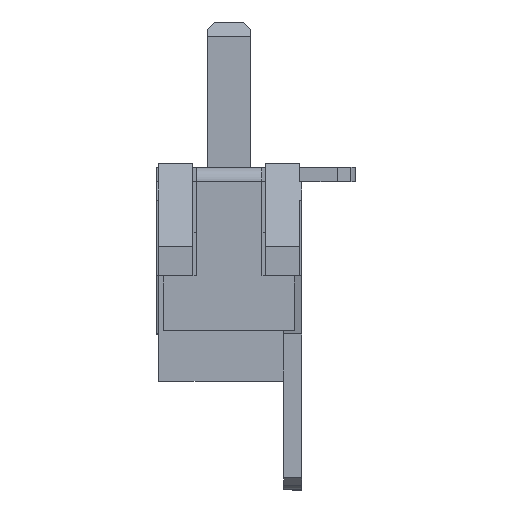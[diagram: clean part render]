
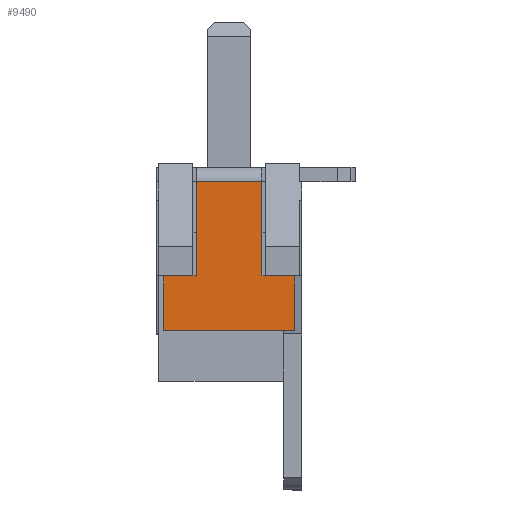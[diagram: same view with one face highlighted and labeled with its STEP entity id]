
A CAD part, left-side view. The second image highlights one B-rep face of the part: STEP entity #9490.
In plain terms, the highlighted planar face has unit normal (-1, 0, 0).
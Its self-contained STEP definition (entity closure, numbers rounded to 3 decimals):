
#5119 = CARTESIAN_POINT ( 'NONE',  ( -6.2, 0.24, -0.395 ) ) ;
#5120 = CARTESIAN_POINT ( 'NONE',  ( -6.2, 2.04, -0.395 ) ) ;
#5121 = CARTESIAN_POINT ( 'NONE',  ( -6.2, 0.64, 0.355 ) ) ;
#5122 = CARTESIAN_POINT ( 'NONE',  ( -6.2, 0.24, 0.355 ) ) ;
#5123 = DIRECTION ( 'NONE',  ( 0., 0., 1. ) ) ;
#5124 = VECTOR ( 'NONE', #5123, 1000. ) ;
#5125 = CARTESIAN_POINT ( 'NONE',  ( -6.2, 0.24, 1.855 ) ) ;
#5126 = LINE ( 'NONE', #5125, #5124 ) ;
#5127 = DIRECTION ( 'NONE',  ( 0., 1., 0. ) ) ;
#5128 = VECTOR ( 'NONE', #5127, 1000. ) ;
#5129 = CARTESIAN_POINT ( 'NONE',  ( -6.2, 1.59, -0.395 ) ) ;
#5130 = LINE ( 'NONE', #5129, #5128 ) ;
#5131 = DIRECTION ( 'NONE',  ( 0., 1., 0. ) ) ;
#5132 = VECTOR ( 'NONE', #5131, 1000. ) ;
#5133 = CARTESIAN_POINT ( 'NONE',  ( -6.2, 1.59, 0.355 ) ) ;
#5134 = LINE ( 'NONE', #5133, #5132 ) ;
#5136 = DIRECTION ( 'NONE',  ( 0., 0., -1. ) ) ;
#5137 = VECTOR ( 'NONE', #5136, 1000. ) ;
#5138 = CARTESIAN_POINT ( 'NONE',  ( -6.2, 2.04, 1.855 ) ) ;
#5139 = LINE ( 'NONE', #5138, #5137 ) ;
#5140 = DIRECTION ( 'NONE',  ( 0., 1., 0. ) ) ;
#5141 = VECTOR ( 'NONE', #5140, 1000. ) ;
#5142 = CARTESIAN_POINT ( 'NONE',  ( -6.2, 1.59, 0.355 ) ) ;
#5143 = LINE ( 'NONE', #5142, #5141 ) ;
#5151 = CARTESIAN_POINT ( 'NONE',  ( -6.2, 1.59, 1.855 ) ) ;
#5152 = AXIS2_PLACEMENT_3D ( 'NONE', #5151, #5212, #5211 ) ;
#5153 = PLANE ( 'NONE',  #5152 ) ;
#5168 = FACE_OUTER_BOUND ( 'NONE', #9491, .T. ) ;
#5175 = DIRECTION ( 'NONE',  ( 0., 1., 0. ) ) ;
#5176 = VECTOR ( 'NONE', #5175, 1000. ) ;
#5177 = CARTESIAN_POINT ( 'NONE',  ( -6.2, 1.59, 0.355 ) ) ;
#5178 = LINE ( 'NONE', #5177, #5176 ) ;
#5211 = DIRECTION ( 'NONE',  ( 0., -1., 0. ) ) ;
#5212 = DIRECTION ( 'NONE',  ( -1., 0., 0. ) ) ;
#5258 = CARTESIAN_POINT ( 'NONE',  ( -6.2, 2.04, 0.355 ) ) ;
#5259 = CARTESIAN_POINT ( 'NONE',  ( -6.2, 1.59, 0.355 ) ) ;
#5266 = CARTESIAN_POINT ( 'NONE',  ( -6.2, 1.59, 1.655 ) ) ;
#5306 = CARTESIAN_POINT ( 'NONE',  ( -6.2, 0.69, 0.355 ) ) ;
#5308 = DIRECTION ( 'NONE',  ( 0., 1., 0. ) ) ;
#5309 = VECTOR ( 'NONE', #5308, 1000. ) ;
#5310 = CARTESIAN_POINT ( 'NONE',  ( -6.2, 1.59, 1.655 ) ) ;
#5311 = LINE ( 'NONE', #5310, #5309 ) ;
#5312 = CARTESIAN_POINT ( 'NONE',  ( -6.2, 1.64, 0.355 ) ) ;
#5313 = DIRECTION ( 'NONE',  ( 0., 1., 0. ) ) ;
#5314 = VECTOR ( 'NONE', #5313, 1000. ) ;
#5315 = CARTESIAN_POINT ( 'NONE',  ( -6.2, 1.59, 0.355 ) ) ;
#5316 = LINE ( 'NONE', #5315, #5314 ) ;
#5317 = DIRECTION ( 'NONE',  ( 0., 0., -1. ) ) ;
#5318 = VECTOR ( 'NONE', #5317, 1000. ) ;
#5319 = CARTESIAN_POINT ( 'NONE',  ( -6.2, 1.59, 1.855 ) ) ;
#5320 = LINE ( 'NONE', #5319, #5318 ) ;
#5321 = DIRECTION ( 'NONE',  ( 0., 0., 1. ) ) ;
#5322 = VECTOR ( 'NONE', #5321, 1000. ) ;
#5323 = CARTESIAN_POINT ( 'NONE',  ( -6.2, 0.69, 1.855 ) ) ;
#5324 = LINE ( 'NONE', #5323, #5322 ) ;
#5351 = CARTESIAN_POINT ( 'NONE',  ( -6.2, 0.69, 1.655 ) ) ;
#9463 = EDGE_CURVE ( 'NONE', #9525, #9512, #5143, .T. ) ;
#9464 = ORIENTED_EDGE ( 'NONE', *, *, #9465, .T. ) ;
#9465 = EDGE_CURVE ( 'NONE', #9512, #9480, #5139, .T. ) ;
#9471 = EDGE_CURVE ( 'NONE', #9478, #9530, #5134, .T. ) ;
#9472 = ORIENTED_EDGE ( 'NONE', *, *, #9471, .T. ) ;
#9473 = ORIENTED_EDGE ( 'NONE', *, *, #9475, .T. ) ;
#9474 = EDGE_CURVE ( 'NONE', #9481, #9480, #5130, .T. ) ;
#9475 = EDGE_CURVE ( 'NONE', #9481, #9477, #5126, .T. ) ;
#9476 = ORIENTED_EDGE ( 'NONE', *, *, #9474, .F. ) ;
#9477 = VERTEX_POINT ( 'NONE', #5122 ) ;
#9478 = VERTEX_POINT ( 'NONE', #5121 ) ;
#9479 = ORIENTED_EDGE ( 'NONE', *, *, #9482, .T. ) ;
#9480 = VERTEX_POINT ( 'NONE', #5120 ) ;
#9481 = VERTEX_POINT ( 'NONE', #5119 ) ;
#9482 = EDGE_CURVE ( 'NONE', #9477, #9478, #5178, .T. ) ;
#9490 = ADVANCED_FACE ( 'NONE', ( #5168 ), #5153, .T. ) ;
#9491 = EDGE_LOOP ( 'NONE', ( #9476, #9473, #9479, #9472, #9547, #9518, #9527, #9523, #9511, #9464 ) ) ;
#9510 = VERTEX_POINT ( 'NONE', #5259 ) ;
#9511 = ORIENTED_EDGE ( 'NONE', *, *, #9463, .T. ) ;
#9512 = VERTEX_POINT ( 'NONE', #5258 ) ;
#9518 = ORIENTED_EDGE ( 'NONE', *, *, #9526, .T. ) ;
#9520 = VERTEX_POINT ( 'NONE', #5266 ) ;
#9521 = EDGE_CURVE ( 'NONE', #9530, #9546, #5324, .T. ) ;
#9522 = EDGE_CURVE ( 'NONE', #9520, #9510, #5320, .T. ) ;
#9523 = ORIENTED_EDGE ( 'NONE', *, *, #9524, .T. ) ;
#9524 = EDGE_CURVE ( 'NONE', #9510, #9525, #5316, .T. ) ;
#9525 = VERTEX_POINT ( 'NONE', #5312 ) ;
#9526 = EDGE_CURVE ( 'NONE', #9546, #9520, #5311, .T. ) ;
#9527 = ORIENTED_EDGE ( 'NONE', *, *, #9522, .T. ) ;
#9530 = VERTEX_POINT ( 'NONE', #5306 ) ;
#9546 = VERTEX_POINT ( 'NONE', #5351 ) ;
#9547 = ORIENTED_EDGE ( 'NONE', *, *, #9521, .T. ) ;
